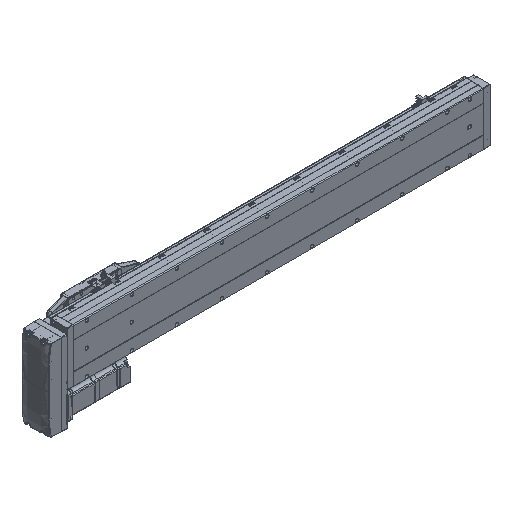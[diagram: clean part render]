
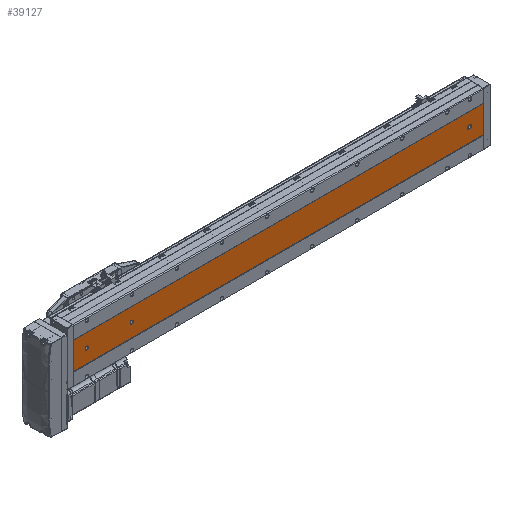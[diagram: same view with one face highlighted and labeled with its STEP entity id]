
A CAD part, isometric view. The second image highlights one B-rep face of the part: STEP entity #39127.
In plain terms, the highlighted planar face has unit normal (0, -1, 0).
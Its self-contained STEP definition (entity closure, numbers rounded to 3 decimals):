
#39 = VERTEX_POINT ( 'NONE', #12345 ) ;
#1262 = FACE_BOUND ( 'NONE', #75569, .T. ) ;
#1461 = DIRECTION ( 'NONE',  ( 0., 0., 1. ) ) ;
#3231 = DIRECTION ( 'NONE',  ( 0., 0., 1. ) ) ;
#3457 = AXIS2_PLACEMENT_3D ( 'NONE', #6543, #19696, #78782 ) ;
#4421 = VECTOR ( 'NONE', #3231, 1000. ) ;
#5233 = EDGE_CURVE ( 'NONE', #11035, #37571, #80264, .T. ) ;
#6543 = CARTESIAN_POINT ( 'NONE',  ( -39.892, -52.848, 30. ) ) ;
#6978 = DIRECTION ( 'NONE',  ( 0., 0., 1. ) ) ;
#8003 = EDGE_CURVE ( 'NONE', #48789, #80009, #65430, .T. ) ;
#10050 = ORIENTED_EDGE ( 'NONE', *, *, #75408, .F. ) ;
#11035 = VERTEX_POINT ( 'NONE', #32929 ) ;
#11413 = AXIS2_PLACEMENT_3D ( 'NONE', #16854, #75370, #41979 ) ;
#12345 = CARTESIAN_POINT ( 'NONE',  ( -43.392, -52.848, 30. ) ) ;
#13416 = CARTESIAN_POINT ( 'NONE',  ( -39.892, -52.848, 877.5 ) ) ;
#14590 = VECTOR ( 'NONE', #20519, 1000. ) ;
#14603 = DIRECTION ( 'NONE',  ( 0., 0., 1. ) ) ;
#16854 = CARTESIAN_POINT ( 'NONE',  ( -69.892, -52.848, 911. ) ) ;
#16965 = VECTOR ( 'NONE', #60833, 1000. ) ;
#17736 = DIRECTION ( 'NONE',  ( 1., 0., 0. ) ) ;
#19696 = DIRECTION ( 'NONE',  ( 0., 1., 0. ) ) ;
#19761 = EDGE_CURVE ( 'NONE', #29930, #22111, #68060, .T. ) ;
#20519 = DIRECTION ( 'NONE',  ( 1., 0., 0. ) ) ;
#20603 = CIRCLE ( 'NONE', #3457, 3.5 ) ;
#20962 = DIRECTION ( 'NONE',  ( 0., 1., 0. ) ) ;
#21660 = FACE_BOUND ( 'NONE', #59773, .T. ) ;
#22111 = VERTEX_POINT ( 'NONE', #13416 ) ;
#23087 = ORIENTED_EDGE ( 'NONE', *, *, #19761, .T. ) ;
#23964 = CIRCLE ( 'NONE', #31510, 3.5 ) ;
#24136 = ORIENTED_EDGE ( 'NONE', *, *, #69760, .T. ) ;
#24769 = ORIENTED_EDGE ( 'NONE', *, *, #60749, .T. ) ;
#26115 = DIRECTION ( 'NONE',  ( 0., 1., 0. ) ) ;
#26350 = DIRECTION ( 'NONE',  ( 0., 0., 1. ) ) ;
#26472 = AXIS2_PLACEMENT_3D ( 'NONE', #73667, #46894, #14603 ) ;
#26521 = AXIS2_PLACEMENT_3D ( 'NONE', #33788, #78337, #26350 ) ;
#26682 = ORIENTED_EDGE ( 'NONE', *, *, #56280, .T. ) ;
#27231 = CARTESIAN_POINT ( 'NONE',  ( -9.892, -52.848, 0. ) ) ;
#27335 = CIRCLE ( 'NONE', #63775, 3.5 ) ;
#27528 = DIRECTION ( 'NONE',  ( 0., 0., 1. ) ) ;
#29652 = PLANE ( 'NONE',  #11413 ) ;
#29930 = VERTEX_POINT ( 'NONE', #59528 ) ;
#30585 = ORIENTED_EDGE ( 'NONE', *, *, #69224, .T. ) ;
#31141 = VERTEX_POINT ( 'NONE', #73189 ) ;
#31510 = AXIS2_PLACEMENT_3D ( 'NONE', #66962, #72995, #52795 ) ;
#32000 = ORIENTED_EDGE ( 'NONE', *, *, #8003, .T. ) ;
#32586 = CARTESIAN_POINT ( 'NONE',  ( -36.392, -52.848, 911. ) ) ;
#32929 = CARTESIAN_POINT ( 'NONE',  ( -69.892, -52.848, 911. ) ) ;
#33369 = VERTEX_POINT ( 'NONE', #51606 ) ;
#33788 = CARTESIAN_POINT ( 'NONE',  ( -39.892, -52.848, 881. ) ) ;
#33810 = CIRCLE ( 'NONE', #26472, 3.5 ) ;
#34008 = LINE ( 'NONE', #53368, #14590 ) ;
#34295 = CARTESIAN_POINT ( 'NONE',  ( -69.892, -52.848, 911. ) ) ;
#34482 = EDGE_CURVE ( 'NONE', #31141, #52525, #55156, .T. ) ;
#34668 = CARTESIAN_POINT ( 'NONE',  ( -39.892, -52.848, 781. ) ) ;
#35103 = CIRCLE ( 'NONE', #65131, 3.5 ) ;
#37571 = VERTEX_POINT ( 'NONE', #40555 ) ;
#39127 = ADVANCED_FACE ( 'NONE', ( #21660, #61538, #1262, #40127 ), #29652, .F. ) ;
#40127 = FACE_OUTER_BOUND ( 'NONE', #81918, .T. ) ;
#40555 = CARTESIAN_POINT ( 'NONE',  ( -69.892, -52.848, 0. ) ) ;
#41663 = VERTEX_POINT ( 'NONE', #61026 ) ;
#41979 = DIRECTION ( 'NONE',  ( 0., 0., 1. ) ) ;
#43003 = VECTOR ( 'NONE', #64809, 1000. ) ;
#43525 = ORIENTED_EDGE ( 'NONE', *, *, #34482, .F. ) ;
#46102 = CARTESIAN_POINT ( 'NONE',  ( -36.392, -52.848, 32. ) ) ;
#46894 = DIRECTION ( 'NONE',  ( 0., 1., 0. ) ) ;
#48789 = VERTEX_POINT ( 'NONE', #46102 ) ;
#51606 = CARTESIAN_POINT ( 'NONE',  ( -39.892, -52.848, 26.5 ) ) ;
#52525 = VERTEX_POINT ( 'NONE', #27231 ) ;
#52542 = EDGE_CURVE ( 'NONE', #67019, #63613, #35103, .T. ) ;
#52670 = EDGE_CURVE ( 'NONE', #39, #41663, #69764, .T. ) ;
#52795 = DIRECTION ( 'NONE',  ( 0., 0., 1. ) ) ;
#53191 = CARTESIAN_POINT ( 'NONE',  ( -39.892, -52.848, 30. ) ) ;
#53346 = ORIENTED_EDGE ( 'NONE', *, *, #52542, .T. ) ;
#53368 = CARTESIAN_POINT ( 'NONE',  ( -69.892, -52.848, 911. ) ) ;
#54618 = ORIENTED_EDGE ( 'NONE', *, *, #52670, .T. ) ;
#55156 = LINE ( 'NONE', #84051, #66410 ) ;
#56280 = EDGE_CURVE ( 'NONE', #80009, #33369, #27335, .T. ) ;
#59467 = DIRECTION ( 'NONE',  ( 0., 1., 0. ) ) ;
#59528 = CARTESIAN_POINT ( 'NONE',  ( -39.892, -52.848, 884.5 ) ) ;
#59752 = CIRCLE ( 'NONE', #67877, 3.5 ) ;
#59773 = EDGE_LOOP ( 'NONE', ( #32000, #26682, #30585, #54618, #24136 ) ) ;
#60749 = EDGE_CURVE ( 'NONE', #63613, #67019, #59752, .T. ) ;
#60833 = DIRECTION ( 'NONE',  ( 0., 0., -1. ) ) ;
#61026 = CARTESIAN_POINT ( 'NONE',  ( -43.392, -52.848, 32. ) ) ;
#61538 = FACE_BOUND ( 'NONE', #73304, .T. ) ;
#63613 = VERTEX_POINT ( 'NONE', #73331 ) ;
#63775 = AXIS2_PLACEMENT_3D ( 'NONE', #53191, #59467, #1461 ) ;
#64795 = EDGE_CURVE ( 'NONE', #22111, #29930, #23964, .T. ) ;
#64809 = DIRECTION ( 'NONE',  ( 0., 0., -1. ) ) ;
#65131 = AXIS2_PLACEMENT_3D ( 'NONE', #34668, #20962, #27528 ) ;
#65430 = LINE ( 'NONE', #32586, #43003 ) ;
#66410 = VECTOR ( 'NONE', #71397, 1000. ) ;
#66962 = CARTESIAN_POINT ( 'NONE',  ( -39.892, -52.848, 881. ) ) ;
#67019 = VERTEX_POINT ( 'NONE', #83014 ) ;
#67119 = ORIENTED_EDGE ( 'NONE', *, *, #64795, .T. ) ;
#67877 = AXIS2_PLACEMENT_3D ( 'NONE', #84722, #26115, #6978 ) ;
#68060 = CIRCLE ( 'NONE', #26521, 3.5 ) ;
#69224 = EDGE_CURVE ( 'NONE', #33369, #39, #20603, .T. ) ;
#69650 = CARTESIAN_POINT ( 'NONE',  ( -69.892, -52.848, 0. ) ) ;
#69760 = EDGE_CURVE ( 'NONE', #41663, #48789, #33810, .T. ) ;
#69764 = LINE ( 'NONE', #74908, #4421 ) ;
#69979 = EDGE_CURVE ( 'NONE', #37571, #52525, #81723, .T. ) ;
#71397 = DIRECTION ( 'NONE',  ( 0., 0., -1. ) ) ;
#72995 = DIRECTION ( 'NONE',  ( 0., 1., 0. ) ) ;
#73189 = CARTESIAN_POINT ( 'NONE',  ( -9.892, -52.848, 911. ) ) ;
#73304 = EDGE_LOOP ( 'NONE', ( #53346, #24769 ) ) ;
#73331 = CARTESIAN_POINT ( 'NONE',  ( -39.892, -52.848, 784.5 ) ) ;
#73667 = CARTESIAN_POINT ( 'NONE',  ( -39.892, -52.848, 32. ) ) ;
#74908 = CARTESIAN_POINT ( 'NONE',  ( -43.392, -52.848, 911. ) ) ;
#75370 = DIRECTION ( 'NONE',  ( 0., 1., 0. ) ) ;
#75408 = EDGE_CURVE ( 'NONE', #11035, #31141, #34008, .T. ) ;
#75569 = EDGE_LOOP ( 'NONE', ( #67119, #23087 ) ) ;
#76640 = VECTOR ( 'NONE', #17736, 1000. ) ;
#78337 = DIRECTION ( 'NONE',  ( 0., 1., 0. ) ) ;
#78782 = DIRECTION ( 'NONE',  ( 0., 0., 1. ) ) ;
#80009 = VERTEX_POINT ( 'NONE', #81201 ) ;
#80264 = LINE ( 'NONE', #34295, #16965 ) ;
#80992 = ORIENTED_EDGE ( 'NONE', *, *, #5233, .T. ) ;
#81201 = CARTESIAN_POINT ( 'NONE',  ( -36.392, -52.848, 30. ) ) ;
#81723 = LINE ( 'NONE', #69650, #76640 ) ;
#81918 = EDGE_LOOP ( 'NONE', ( #84192, #43525, #10050, #80992 ) ) ;
#83014 = CARTESIAN_POINT ( 'NONE',  ( -39.892, -52.848, 777.5 ) ) ;
#84051 = CARTESIAN_POINT ( 'NONE',  ( -9.892, -52.848, 911. ) ) ;
#84192 = ORIENTED_EDGE ( 'NONE', *, *, #69979, .T. ) ;
#84722 = CARTESIAN_POINT ( 'NONE',  ( -39.892, -52.848, 781. ) ) ;
